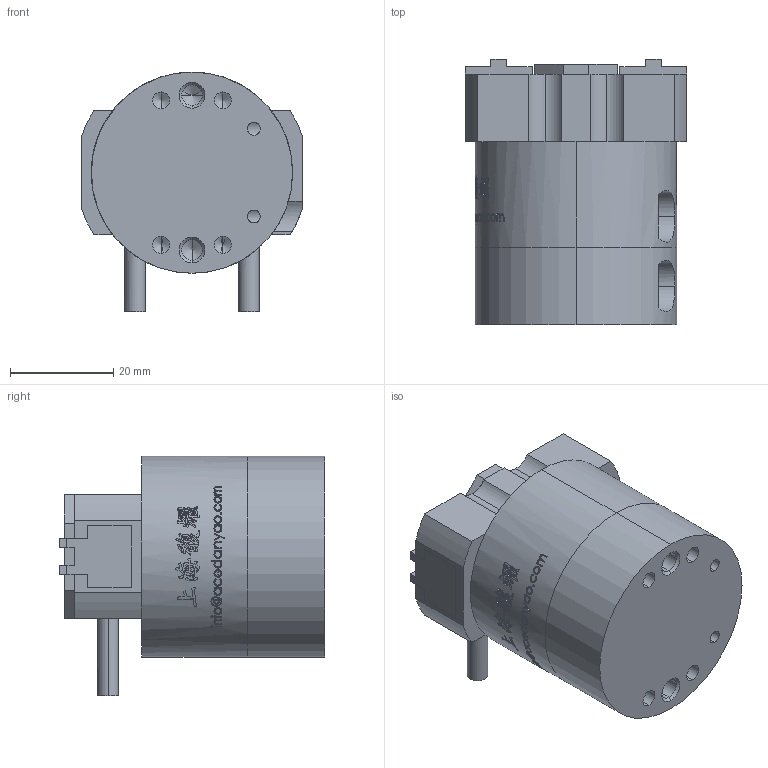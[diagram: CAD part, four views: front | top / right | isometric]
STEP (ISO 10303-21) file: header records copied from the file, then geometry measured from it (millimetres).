
FILE_DESCRIPTION (( 'STEP AP203' ), '1' );
FILE_NAME ('OPM-040-C1-MC&MA-原始檔-組合-W106.04.18.STEP', '2017-04-18T03:35:40', ( 'DanyaoCAD' ), ( '' ), 'SwSTEP 2.0', 'SolidWorks 2016', '' );
FILE_SCHEMA (( 'CONFIG_CONTROL_DESIGN' ));
Length unit declared in the file: millimetre
Products named in the file (4): Griffa; Corpo; Fondello; OPM-040-C1-MC&MA-原始檔-組合-W106.04.18
Assembly tree (4 placements, depth 2):
  OPM-040-C1-MC&MA-原始檔-組合-W106.04.18
    Griffa  x2
    Corpo
    Fondello
Bounding box: 43 x 51.5 x 46.5 mm (x, y, z)
Volume: 53082.9 mm3; surface area: 18203 mm2
Topology: 4 solids, 4 shells, 1008 faces, 2795 edges, 1832 vertices
Faces by surface type: bspline 665, plane 184, cylinder 121, cone 38
Entity records: 74640 total; most frequent: CARTESIAN_POINT 55178, ORIENTED_EDGE 5372, EDGE_CURVE 2686, B_SPLINE_CURVE_WITH_KNOTS 2042, VERTEX_POINT 1776, DIRECTION 1493, EDGE_LOOP 1052, ADVANCED_FACE 975
